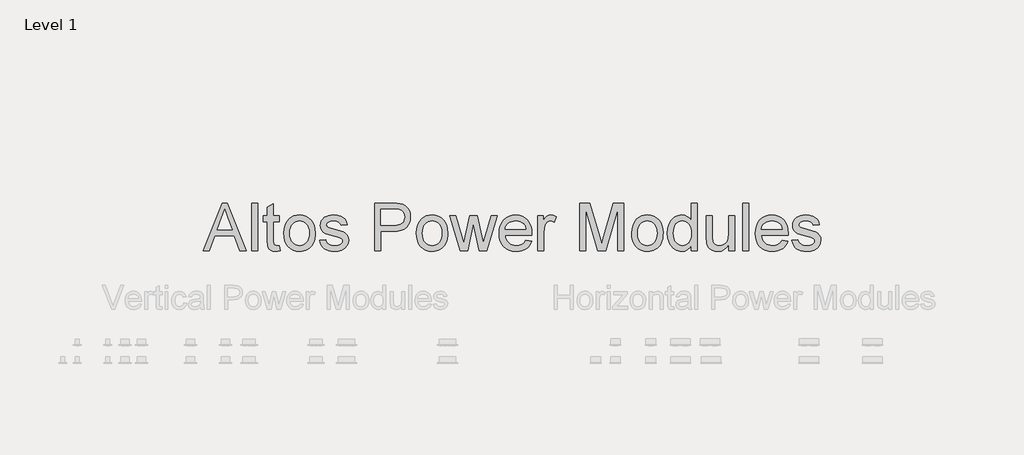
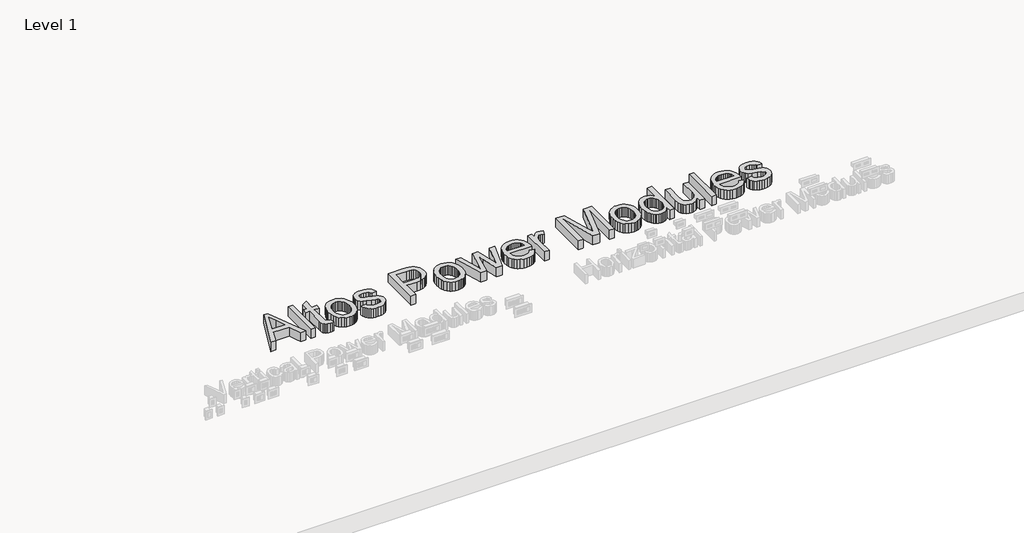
# One storey, part 20 of 22: 1 proxy.
"""IFC4 building model written with IfcOpenShell, lengths in millimetres."""

import ifcopenshell
import ifcopenshell.guid

model = None  # the IFC model being written
_history = None  # IfcOwnerHistory: only IFC2X3 demands one
_inside = {}  # id of a spatial element -> (the spatial element, [elements in it])
_under = {}  # id of a project, library or spatial element -> (it, [spatial elements below it])
_declared = {}  # id of a project -> (the project, [libraries it declares])
_typed = {}  # id of a type object -> (the type object, [elements of that type])
_made_of = {}  # id of a material, layer set ... -> (it, [elements and type objects made of it])


def new_model(schema):
    """Start an empty IFC model of exactly this schema.

    Asked for "IFC4X3", IfcOpenShell would pick the latest addendum, in which some entities
    have other attributes; the version numbers below select the first issue.
    IFC2X3 requires an IfcOwnerHistory on every rooted entity: one is made here for all.
    """
    global model, _history
    if schema == "IFC4X3":
        model = ifcopenshell.file(schema_version=(4, 3, 0, 0))
    else:
        model = ifcopenshell.file(schema=schema)
    _inside.clear()
    _under.clear()
    _declared.clear()
    _typed.clear()
    _made_of.clear()
    _history = None
    if model.schema == "IFC2X3":
        org = make("IfcOrganization", Name="unknown")
        user = make(
            "IfcPersonAndOrganization",
            ThePerson=make("IfcPerson", FamilyName="unknown"),
            TheOrganization=org,
        )
        app = make(
            "IfcApplication",
            ApplicationDeveloper=org,
            Version="unknown",
            ApplicationFullName="unknown",
            ApplicationIdentifier="unknown",
        )
        _history = make(
            "IfcOwnerHistory",
            OwningUser=user,
            OwningApplication=app,
            ChangeAction="ADDED",
            CreationDate=0,
        )
    return model


def make(cls, **values):
    """One entity of the class cls with the attributes given. An attribute that is None is left unset."""
    return model.create_entity(
        cls, **{name: value for name, value in values.items() if value is not None}
    )


def rooted(cls, **values):
    """An entity with a GlobalId (a new one), such as an element, a storey or a relation."""
    return make(cls, GlobalId=ifcopenshell.guid.new(), OwnerHistory=_history, **values)


def si_unit(unit_type, name, prefix=None):
    """IfcSIUnit, for example si_unit("LENGTHUNIT", "METRE", prefix="MILLI")."""
    return make("IfcSIUnit", UnitType=unit_type, Prefix=prefix, Name=name)


def assignment(units):
    """IfcUnitAssignment: the units of a project."""
    return None if units is None else make("IfcUnitAssignment", Units=units)


def point(xyz):
    """IfcCartesianPoint."""
    return None if xyz is None else make("IfcCartesianPoint", Coordinates=xyz)


def direction(xyz):
    """IfcDirection."""
    return None if xyz is None else make("IfcDirection", DirectionRatios=xyz)


def frame(location, z_axis=None, x_axis=None):
    """IfcAxis2Placement3D, a coordinate frame: its origin and axes. An axis left out is left unset."""
    return make(
        "IfcAxis2Placement3D",
        Location=point(location),
        Axis=direction(z_axis),
        RefDirection=direction(x_axis),
    )


def origin():
    """The frame at (0, 0, 0) with its axes left unset."""
    return frame((0.0, 0.0, 0.0))


def origin_with_axes():
    """The frame at (0, 0, 0) with the z axis (0, 0, 1) and the x axis (1, 0, 0) written out."""
    return frame((0.0, 0.0, 0.0), z_axis=(0.0, 0.0, 1.0), x_axis=(1.0, 0.0, 0.0))


def place(relative_to, where):
    """IfcLocalPlacement: puts the frame where relative to a parent placement (None: the world)."""
    return make(
        "IfcLocalPlacement", PlacementRelTo=relative_to, RelativePlacement=where
    )


def context(
    kind, dimensions, precision=None, world=None, true_north=None, identifier=None
):
    """IfcGeometricRepresentationContext, for example the 3D "Model" context."""
    return make(
        "IfcGeometricRepresentationContext",
        ContextIdentifier=identifier,
        ContextType=kind,
        CoordinateSpaceDimension=dimensions,
        Precision=precision,
        WorldCoordinateSystem=world,
        TrueNorth=true_north,
    )


def project(units=None, contexts=None):
    """IfcProject with its units and contexts."""
    return rooted(
        "IfcProject",
        Name="project",
        RepresentationContexts=contexts,
        UnitsInContext=assignment(units),
    )


def spatial(cls, under=None, at=None, **own):
    """A site, building, storey or space (cls), placed at a placement, below another one or the project."""
    s = rooted(cls, ObjectPlacement=at, **own)
    if under is not None:
        _under.setdefault(under.id(), (under, []))[1].append(s)
    return s


def polyline(points):
    """IfcPolyline through the points."""
    return make("IfcPolyline", Points=[point(p) for p in points])


def outline(outer, holes=None, kind="AREA"):
    """IfcArbitraryClosedProfileDef: a profile drawn as a closed curve; with holes, ...WithVoids."""
    if holes is None:
        return make("IfcArbitraryClosedProfileDef", ProfileType=kind, OuterCurve=outer)
    return make(
        "IfcArbitraryProfileDefWithVoids",
        ProfileType=kind,
        OuterCurve=outer,
        InnerCurves=holes,
    )


def extrude(swept, where, along, depth):
    """IfcExtrudedAreaSolid: the profile swept, set in the frame where, extruded along a direction by depth."""
    return make(
        "IfcExtrudedAreaSolid",
        SweptArea=swept,
        Position=where,
        ExtrudedDirection=direction(along),
        Depth=depth,
    )


def shape(context_of_items, identifier, shape_type, items):
    """IfcShapeRepresentation: the items that make up one representation, for example the "Body"."""
    return make(
        "IfcShapeRepresentation",
        ContextOfItems=context_of_items,
        RepresentationIdentifier=identifier,
        RepresentationType=shape_type,
        Items=items,
    )


def made_of(thing, what):
    """Note that an element or type object is made of a material, layer set ...; save() writes the relation."""
    if what is not None:
        _made_of.setdefault(what.id(), (what, []))[1].append(thing)
    return thing


def element(
    cls,
    number,
    at=None,
    inside=None,
    cuts=None,
    type_object=None,
    material=None,
    context=None,
    identifier="Body",
    shape_type=None,
    held_by="IfcProductDefinitionShape",
    body=None,
    shapes=None,
    **own,
):
    """One element of the class cls, such as IfcWall. Its Tag is "e" and its number.

    at: its placement. inside: the storey or other place that contains it. cuts: it is an
    opening in that element (IfcRelVoidsElement). A single representation is given by context,
    identifier, shape_type and body (its items); several are given by shapes. held_by: the class
    of the entity that holds the representations. save() writes the other relations.
    """
    e = rooted(cls, Tag="e%d" % number, ObjectPlacement=at, **own)
    if body is not None:
        shapes = [shape(context, identifier, shape_type, body)]
    if shapes is not None:
        e.Representation = make(held_by, Representations=shapes)
    if inside is not None:
        _inside.setdefault(inside.id(), (inside, []))[1].append(e)
    if cuts is not None:
        rooted(
            "IfcRelVoidsElement", RelatingBuildingElement=cuts, RelatedOpeningElement=e
        )
    if type_object is not None:
        _typed.setdefault(type_object.id(), (type_object, []))[1].append(e)
    return made_of(e, material)


def aggregate(whole, parts):
    """IfcRelAggregates: a whole, such as a stair, and the parts it consists of."""
    return rooted("IfcRelAggregates", RelatingObject=whole, RelatedObjects=parts)


def save(model, path):
    """Write the relations noted so far, then the file.

    IfcRelAggregates (storeys below a building ...), IfcRelContainedInSpatialStructure (elements
    in a storey), IfcRelDefinesByType, IfcRelAssociatesMaterial and IfcRelDeclares: one each for
    every whole, place, type object, material and project.
    """
    for whole, parts in _under.values():
        aggregate(whole, parts)
    for where, things in _inside.values():
        rooted(
            "IfcRelContainedInSpatialStructure",
            RelatedElements=things,
            RelatingStructure=where,
        )
    for kind, things in _typed.values():
        rooted("IfcRelDefinesByType", RelatedObjects=things, RelatingType=kind)
    for what, things in _made_of.values():
        rooted("IfcRelAssociatesMaterial", RelatedObjects=things, RelatingMaterial=what)
    for by, libraries in _declared.values():
        rooted("IfcRelDeclares", RelatingContext=by, RelatedDefinitions=libraries)
    model.write(path)


model = new_model("IFC4")

# Units and contexts
model_context = context("Model", 3, world=origin())
ifc_project = project(units=[si_unit("LENGTHUNIT", "METRE", prefix="MILLI")], contexts=[model_context])

# Site, building, storey
site = spatial("IfcSite", under=ifc_project)
building = spatial("IfcBuilding", under=site)
storey = spatial("IfcBuildingStorey", under=building, Name="Level 1", Elevation=0.0)

# Proxy
placement = place(None, origin())
element("IfcBuildingElementProxy", 1, Name="24\" Arial", ObjectType="24\" Arial", at=placement, inside=storey, context=model_context, shape_type="SweptSolid", body=[
    extrude(outline(polyline([(-17366.1105674, -4067.9172493), (-17122.9625211, -3458.7830611), (-17058.1230421, -3458.7830611), (-16814.9749958, -4067.9172493), (-16895.4294869, -4067.9172493), (-16965.1765412, -3877.5628155), (-17216.0577364, -3877.5628155), (-17285.6560762, -4067.9172493), (-17366.1105674, -4067.9172493)]), holes=[polyline([(-17188.0994289, -3801.4210419), (-16992.9861343, -3801.4210419), (-17047.8617484, -3651.6656397), (-17090.5427816, -3534.9248346), (-17128.4649539, -3638.5787724), (-17188.0994289, -3801.4210419)])]), origin_with_axes(), (0.0, 0.0, 1.0), 152.4),
    extrude(outline(polyline([(-16743.1459399, -4067.9172493), (-16743.1459399, -3458.7830611), (-16667.0041664, -3458.7830611), (-16667.0041664, -4067.9172493), (-16743.1459399, -4067.9172493)])), origin_with_axes(), (0.0, 0.0, 1.0), 152.4),
    extrude(outline(polyline([(-16390.9902374, -4004.4161999), (-16381.4725157, -4070.1479653), (-16411.6243606, -4075.6132195), (-16438.4301314, -4077.4349709), (-16474.9766956, -4074.2747899), (-16502.2286096, -4064.7942468), (-16521.4871246, -4050.1830569), (-16534.0534915, -4031.6309353), (-16540.9687112, -3999.7688748), (-16543.2737844, -3945.2278681), (-16543.2737844, -3696.7261034), (-16600.3801146, -3696.7261034), (-16600.3801146, -3620.5843298), (-16543.2737844, -3620.5843298), (-16543.2737844, -3511.8741024), (-16467.1320109, -3467.1110676), (-16467.1320109, -3620.5843298), (-16390.9902374, -3620.5843298), (-16390.9902374, -3696.7261034), (-16467.1320109, -3696.7261034), (-16467.1320109, -3942.9971521), (-16463.1167221, -3982.257754), (-16450.1042119, -3996.1625506), (-16439.1179355, -4000.0105357), (-16424.1535489, -4001.2931974), (-16390.9902374, -4004.4161999)])), origin_with_axes(), (0.0, 0.0, 1.0), 152.4),
    extrude(outline(polyline([(-16333.8839073, -3844.2507895), (-16329.7663773, -3786.3172355), (-16317.4137873, -3736.3956699), (-16296.8261374, -3694.4860927), (-16268.0034274, -3660.5885038), (-16238.9855299, -3638.9226745), (-16206.9561657, -3623.4470821), (-16171.9153348, -3614.1617266), (-16133.8630374, -3611.0666081), (-16091.8558663, -3614.8355888), (-16053.8732787, -3626.1425306), (-16019.9152746, -3644.9874336), (-15989.981854, -3671.3702979), (-15965.5508663, -3704.398837), (-15948.1001607, -3743.1807645), (-15937.6297374, -3787.7160804), (-15934.1395963, -3838.0047847), (-15935.6825082, -3878.7618253), (-15940.3112439, -3914.9273088), (-15948.0258035, -3946.5012352), (-15958.8261869, -3973.4836044), (-15972.5776217, -3996.7899395), (-15989.1453355, -4017.3357635), (-16008.5293283, -4035.1210764), (-16030.7296, -4050.1458783), (-16054.8817483, -4062.0848563), (-16080.1213706, -4070.6126978), (-16106.4484669, -4075.7294026), (-16133.8630374, -4077.4349709), (-16176.4836553, -4073.6799323), (-16214.8194396, -4062.4148164), (-16248.8703902, -4043.6396232), (-16278.6365071, -4017.3543528), (-16302.8072447, -3984.0051483), (-16320.0720572, -3944.0381529), (-16330.4309447, -3897.4533666), (-16333.8839073, -3844.2507895)]), holes=[polyline([(-16257.7421337, -3844.1020751), (-16255.5393017, -3881.0343673), (-16248.9308055, -3913.0126109), (-16237.9166451, -3940.036806), (-16222.4968206, -3962.1069527), (-16203.7402167, -3979.2509347), (-16182.7157182, -3991.4966362), (-16159.4233251, -3998.8440571), (-16133.8630374, -4001.2931974), (-16108.4328747, -3998.8301152), (-16085.2334281, -3991.4408683), (-16064.2646975, -3979.125457), (-16045.5266829, -3961.8838811), (-16030.1068584, -3939.5953101), (-16019.0926981, -3912.1389138), (-16012.4842019, -3879.514692), (-16010.2813698, -3841.7226447), (-16012.4981439, -3805.9614785), (-16019.148466, -3774.8197534), (-16030.2323362, -3748.2974694), (-16045.7497545, -3726.3946264), (-16064.557479, -3709.2506443), (-16085.5122676, -3697.0049429), (-16108.6141204, -3689.657522), (-16133.8630374, -3687.2083817), (-16159.4233251, -3689.6482273), (-16182.7157182, -3696.9677643), (-16203.7402167, -3709.1669925), (-16222.4968206, -3726.245912), (-16237.9166451, -3748.2509961), (-16248.9308055, -3775.228718), (-16255.5393017, -3807.1790777), (-16257.7421337, -3844.1020751)])]), origin_with_axes(), (0.0, 0.0, 1.0), 152.4),
    extrude(outline(polyline([(-15877.0332662, -3934.6691456), (-15800.8914926, -3925.1514239), (-15796.2906408, -3942.5138303), (-15788.8828047, -3957.7198778), (-15778.6679843, -3970.7695665), (-15765.6461795, -3981.6628964), (-15749.7802118, -3990.2511531), (-15731.0329026, -3996.3856222), (-15684.8942595, -4001.2931974), (-15639.3132955, -3996.7945868), (-15621.5976924, -3991.1713235), (-15607.265342, -3983.2987549), (-15588.3042558, -3963.7428111), (-15583.5639843, -3952.7937133), (-15581.9838938, -3941.0638649), (-15583.5732789, -3930.7839819), (-15588.3414344, -3921.6566355), (-15607.4140564, -3906.8595525), (-15635.9300429, -3897.1931164), (-15685.7865459, -3885.1472499), (-15755.27335, -3865.0522164), (-15800.4453494, -3847.8942924), (-15829.463247, -3829.1748671), (-15850.4877455, -3804.39533), (-15863.2585947, -3775.1357715), (-15867.5155445, -3742.9762822), (-15864.0951132, -3713.4750628), (-15853.8338195, -3686.2417381), (-15837.6611284, -3662.3544873), (-15816.5065048, -3642.89149), (-15795.4820063, -3630.6411412), (-15768.0999671, -3620.3612582), (-15736.4423889, -3613.3902707), (-15702.5912733, -3611.0666081), (-15653.032199, -3614.8030575), (-15609.9422012, -3626.0124055), (-15575.2917457, -3643.5978835), (-15551.0512983, -3666.4627227), (-15534.9901429, -3696.2985495), (-15524.8775636, -3734.7969901), (-15601.0193372, -3744.3147118), (-15610.6300053, -3720.3531039), (-15629.6468594, -3702.3028934), (-15658.2557924, -3690.9820096), (-15696.6426973, -3687.2083817), (-15740.3647313, -3690.8147059), (-15769.5127539, -3701.6336786), (-15785.9085167, -3717.2486907), (-15791.3737709, -3735.2431333), (-15789.1058763, -3746.9543924), (-15782.3021925, -3757.4015791), (-15770.6652905, -3766.7334078), (-15753.8977418, -3774.2063065), (-15688.3146908, -3790.4161762), (-15621.0400134, -3810.3067274), (-15576.5558181, -3826.256347), (-15547.0360094, -3843.3956817), (-15524.654492, -3866.8553786), (-15510.5452132, -3896.7097946), (-15505.8421203, -3933.0332872), (-15511.3631424, -3970.5836735), (-15527.9262089, -4005.9033439), (-15554.8992834, -4036.2224925), (-15591.6503299, -4058.7713136), (-15636.0415787, -4072.7690566), (-15685.9352604, -4077.4349709), (-15726.9153726, -4075.1856656), (-15762.7090701, -4068.4377497), (-15793.3163528, -4057.1912231), (-15818.7372208, -4041.4460858), (-15839.5014691, -4021.2766951), (-15856.1388928, -3996.7574082), (-15868.6494918, -3967.888225), (-15877.0332662, -3934.6691456)])), origin_with_axes(), (0.0, 0.0, 1.0), 152.4),
    extrude(outline(polyline([(-15172.7218611, -4067.9172493), (-15172.7218611, -3458.7830611), (-14946.9733998, -3458.7830611), (-14894.4028589, -3460.2330265), (-14855.9601861, -3464.5829228), (-14815.3797439, -3475.4204848), (-14781.9747714, -3493.0617306), (-14755.0760541, -3518.3060003), (-14734.014377, -3551.9526336), (-14720.4070093, -3591.6407895), (-14715.87122, -3635.0096268), (-14718.9338072, -3672.4020041), (-14728.1215688, -3706.8015041), (-14743.4345049, -3738.2081267), (-14764.8726153, -3766.621872), (-14794.3041248, -3790.1745153), (-14833.597258, -3806.997832), (-14882.752015, -3817.091822), (-14941.7683957, -3820.4564853), (-15096.5800876, -3820.4564853), (-15096.5800876, -4067.9172493), (-15172.7218611, -4067.9172493)]), holes=[polyline([(-15096.5800876, -3744.3147118), (-14937.3069637, -3744.3147118), (-14900.6860424, -3742.5673176), (-14869.7906255, -3737.3251349), (-14844.620713, -3728.5881639), (-14825.176305, -3716.3564043), (-14810.6673563, -3700.9551691), (-14800.3038214, -3682.709771), (-14794.0857005, -3661.62021), (-14792.0129935, -3637.686486), (-14796.9019795, -3603.4821737), (-14811.5689373, -3574.6315798), (-14834.1921156, -3552.9192772), (-14862.949763, -3540.1298387), (-14892.3208573, -3536.2260856), (-14939.0915365, -3534.9248346), (-15096.5800876, -3534.9248346), (-15096.5800876, -3744.3147118)])]), origin_with_axes(), (0.0, 0.0, 1.0), 152.4),
    extrude(outline(polyline([(-14639.7294465, -3844.2507895), (-14635.6119165, -3786.3172355), (-14623.2593265, -3736.3956699), (-14602.6716766, -3694.4860927), (-14573.8489667, -3660.5885038), (-14544.8310691, -3638.9226745), (-14512.8017049, -3623.4470821), (-14477.7608741, -3614.1617266), (-14439.7085766, -3611.0666081), (-14397.7014055, -3614.8355888), (-14359.718818, -3626.1425306), (-14325.7608139, -3644.9874336), (-14295.8273933, -3671.3702979), (-14271.3964055, -3704.398837), (-14253.9457, -3743.1807645), (-14243.4752766, -3787.7160804), (-14239.9851355, -3838.0047847), (-14241.5280474, -3878.7618253), (-14246.1567832, -3914.9273088), (-14253.8713428, -3946.5012352), (-14264.6717262, -3973.4836044), (-14278.423161, -3996.7899395), (-14294.9908748, -4017.3357635), (-14314.3748675, -4035.1210764), (-14336.5751392, -4050.1458783), (-14360.7272875, -4062.0848563), (-14385.9669098, -4070.6126978), (-14412.2940062, -4075.7294026), (-14439.7085766, -4077.4349709), (-14482.3291946, -4073.6799323), (-14520.6649789, -4062.4148164), (-14554.7159295, -4043.6396232), (-14584.4820464, -4017.3543528), (-14608.6527839, -3984.0051483), (-14625.9175965, -3944.0381529), (-14636.276484, -3897.4533666), (-14639.7294465, -3844.2507895)]), holes=[polyline([(-14563.587673, -3844.1020751), (-14561.3848409, -3881.0343673), (-14554.7763447, -3913.0126109), (-14543.7621843, -3940.036806), (-14528.3423598, -3962.1069527), (-14509.585756, -3979.2509347), (-14488.5612575, -3991.4966362), (-14465.2688644, -3998.8440571), (-14439.7085766, -4001.2931974), (-14414.278414, -3998.8301152), (-14391.0789674, -3991.4408683), (-14370.1102368, -3979.125457), (-14351.3722222, -3961.8838811), (-14335.9523977, -3939.5953101), (-14324.9382373, -3912.1389138), (-14318.3297411, -3879.514692), (-14316.1269091, -3841.7226447), (-14318.3436831, -3805.9614785), (-14324.9940052, -3774.8197534), (-14336.0778755, -3748.2974694), (-14351.5952938, -3726.3946264), (-14370.4030182, -3709.2506443), (-14391.3578069, -3697.0049429), (-14414.4596597, -3689.657522), (-14439.7085766, -3687.2083817), (-14465.2688644, -3689.6482273), (-14488.5612575, -3696.9677643), (-14509.585756, -3709.1669925), (-14528.3423598, -3726.245912), (-14543.7621843, -3748.2509961), (-14554.7763447, -3775.228718), (-14561.3848409, -3807.1790777), (-14563.587673, -3844.1020751)])]), origin_with_axes(), (0.0, 0.0, 1.0), 152.4),
    extrude(outline(polyline([(-14080.117154, -4067.9172493), (-14216.1908313, -3620.5843298), (-14137.0747698, -3620.5843298), (-14059.8919954, -3881.5781043), (-14036.8412632, -3974.822034), (-14017.9545342, -3884.9985355), (-13956.5354865, -3620.5843298), (-13865.8197016, -3620.5843298), (-13804.6980826, -3884.2549635), (-13787.8933553, -3965.6017411), (-13763.8016222, -3879.7935315), (-13686.4701335, -3620.5843298), (-13607.0566432, -3620.5843298), (-13744.1713213, -4067.9172493), (-13836.2255357, -4067.9172493), (-13894.6702955, -3805.5850452), (-13911.6237372, -3723.7921244), (-13987.0219388, -4067.9172493), (-14080.117154, -4067.9172493)])), origin_with_axes(), (0.0, 0.0, 1.0), 152.4),
    extrude(outline(polyline([(-13241.5166445, -3934.6691456), (-13166.862015, -3944.1868673), (-13178.3083766, -3974.0877566), (-13193.7607324, -4000.4380896), (-13213.2190823, -4023.2378663), (-13236.6834265, -4042.4870866), (-13263.9121039, -4057.776786), (-13294.6634537, -4068.6979999), (-13328.9374759, -4075.2507282), (-13366.7341705, -4077.4349709), (-13413.9788769, -4073.6659903), (-13456.0743472, -4062.3590485), (-13493.0205812, -4043.5141454), (-13524.8175792, -4017.1312812), (-13550.3871616, -3983.944733), (-13568.651149, -3944.6887784), (-13579.6095415, -3899.3634172), (-13583.2623389, -3847.9686496), (-13579.5723629, -3794.831135), (-13568.5024346, -3747.9953932), (-13550.0525542, -3707.4614242), (-13524.2227216, -3673.2292279), (-13492.5093755, -3646.0330818), (-13456.4089546, -3626.6072631), (-13415.9214588, -3614.9517719), (-13371.0468882, -3611.0666081), (-13327.6176356, -3614.9424772), (-13288.3430917, -3626.5700845), (-13253.2232563, -3645.9494299), (-13222.2581295, -3673.0805135), (-13196.9813286, -3707.2383526), (-13178.9264708, -3747.6979644), (-13168.0935562, -3794.459349), (-13164.4825846, -3847.5225064), (-13164.9287278, -3868.0450938), (-13507.1205654, -3868.0450938), (-13502.710254, -3898.4293049), (-13493.9407516, -3925.0398881), (-13480.8120584, -3947.8768434), (-13463.3241742, -3966.9401707), (-13442.4437428, -3981.9696199), (-13419.1374077, -3992.7049407), (-13393.4051689, -3999.1461333), (-13365.2470265, -4001.2931974), (-13324.7223521, -3997.3150872), (-13290.592397, -3985.3807565), (-13262.8571611, -3964.7466333), (-13241.5166445, -3934.6691456)]), holes=[polyline([(-13507.1205654, -3791.9033203), (-13240.6243581, -3791.9033203), (-13250.9228304, -3751.6760747), (-13259.780632, -3735.8565802), (-13271.1108104, -3722.899838), (-13291.8750587, -3707.2848259), (-13315.5020592, -3696.1312457), (-13341.991812, -3689.4390977), (-13371.344317, -3687.2083817), (-13398.1175565, -3688.9883072), (-13422.6693747, -3694.3280836), (-13444.9997716, -3703.2277111), (-13465.108747, -3715.6871895), (-13481.9831843, -3731.1302507), (-13494.6099664, -3748.9806261), (-13502.9890935, -3769.238316), (-13507.1205654, -3791.9033203)])]), origin_with_axes(), (0.0, 0.0, 1.0), 152.4),
    extrude(outline(polyline([(-13088.3408111, -4067.9172493), (-13088.3408111, -3620.5843298), (-13021.7167593, -3620.5843298), (-13021.7167593, -3686.7622385), (-12997.1045258, -3648.3939229), (-12974.4255796, -3625.7893339), (-12951.6722762, -3614.7472896), (-12926.8369712, -3611.0666081), (-12888.9147988, -3616.940827), (-12850.3977688, -3634.5634836), (-12875.8279315, -3702.8233938), (-12902.5965237, -3691.1121347), (-12929.365116, -3687.2083817), (-12952.0998301, -3690.9634203), (-12972.4179352, -3702.2285362), (-12988.8322873, -3720.1486216), (-12999.8557423, -3743.8685686), (-13009.1132137, -3786.4008874), (-13012.1990376, -3832.7997806), (-13012.1990376, -4067.9172493), (-13088.3408111, -4067.9172493)])), origin_with_axes(), (0.0, 0.0, 1.0), 152.4),
    extrude(outline(polyline([(-12555.3483965, -4067.9172493), (-12555.3483965, -3458.7830611), (-12424.3310088, -3458.7830611), (-12299.7083405, -3888.121538), (-12274.5756066, -3977.796322), (-12247.3608712, -3880.6858179), (-12124.8202044, -3458.7830611), (-11993.8028168, -3458.7830611), (-11993.8028168, -4067.9172493), (-12069.9445903, -4067.9172493), (-12069.9445903, -3534.9248346), (-12222.9717093, -4067.9172493), (-12326.1795039, -4067.9172493), (-12479.206623, -3534.9248346), (-12479.206623, -4067.9172493), (-12555.3483965, -4067.9172493)])), origin_with_axes(), (0.0, 0.0, 1.0), 152.4),
    extrude(outline(polyline([(-11889.1078782, -3844.2507895), (-11884.9903482, -3786.3172355), (-11872.6377582, -3736.3956699), (-11852.0501083, -3694.4860927), (-11823.2273984, -3660.5885038), (-11794.2095008, -3638.9226745), (-11762.1801366, -3623.4470821), (-11727.1393058, -3614.1617266), (-11689.0870083, -3611.0666081), (-11647.0798372, -3614.8355888), (-11609.0972497, -3626.1425306), (-11575.1392456, -3644.9874336), (-11545.205825, -3671.3702979), (-11520.7748372, -3704.398837), (-11503.3241317, -3743.1807645), (-11492.8537083, -3787.7160804), (-11489.3635672, -3838.0047847), (-11490.9064791, -3878.7618253), (-11495.5352149, -3914.9273088), (-11503.2497745, -3946.5012352), (-11514.0501579, -3973.4836044), (-11527.8015927, -3996.7899395), (-11544.3693064, -4017.3357635), (-11563.7532992, -4035.1210764), (-11585.9535709, -4050.1458783), (-11610.1057192, -4062.0848563), (-11635.3453415, -4070.6126978), (-11661.6724379, -4075.7294026), (-11689.0870083, -4077.4349709), (-11731.7076263, -4073.6799323), (-11770.0434106, -4062.4148164), (-11804.0943612, -4043.6396232), (-11833.8604781, -4017.3543528), (-11858.0312156, -3984.0051483), (-11875.2960282, -3944.0381529), (-11885.6549157, -3897.4533666), (-11889.1078782, -3844.2507895)]), holes=[polyline([(-11812.9661047, -3844.1020751), (-11810.7632726, -3881.0343673), (-11804.1547764, -3913.0126109), (-11793.140616, -3940.036806), (-11777.7207915, -3962.1069527), (-11758.9641877, -3979.2509347), (-11737.9396892, -3991.4966362), (-11714.6472961, -3998.8440571), (-11689.0870083, -4001.2931974), (-11663.6568457, -3998.8301152), (-11640.4573991, -3991.4408683), (-11619.4886685, -3979.125457), (-11600.7506539, -3961.8838811), (-11585.3308294, -3939.5953101), (-11574.316669, -3912.1389138), (-11567.7081728, -3879.514692), (-11565.5053407, -3841.7226447), (-11567.7221148, -3805.9614785), (-11574.3724369, -3774.8197534), (-11585.4563072, -3748.2974694), (-11600.9737255, -3726.3946264), (-11619.7814499, -3709.2506443), (-11640.7362386, -3697.0049429), (-11663.8380913, -3689.657522), (-11689.0870083, -3687.2083817), (-11714.6472961, -3689.6482273), (-11737.9396892, -3696.9677643), (-11758.9641877, -3709.1669925), (-11777.7207915, -3726.245912), (-11793.140616, -3748.2509961), (-11804.1547764, -3775.228718), (-11810.7632726, -3807.1790777), (-11812.9661047, -3844.1020751)])]), origin_with_axes(), (0.0, 0.0, 1.0), 152.4),
    extrude(outline(polyline([(-11127.690143, -4067.9172493), (-11127.690143, -3996.0881934), (-11150.4713304, -4031.6774086), (-11178.0671465, -4057.0982765), (-11210.4775914, -4072.3507973), (-11247.702665, -4077.4349709), (-11272.8353988, -4075.5946302), (-11296.9271318, -4070.0736081), (-11319.977864, -4060.8719045), (-11341.9875954, -4047.9895195), (-11362.2685219, -4031.812181), (-11380.1328394, -4012.725617), (-11395.5805478, -3990.7298276), (-11408.6116473, -3965.8248127), (-11418.9565928, -3938.4845995), (-11426.3458396, -3909.1832151), (-11432.2572371, -3844.6969327), (-11426.8105721, -3781.0099903), (-11410.4705773, -3723.4946956), (-11398.2202285, -3697.8693453), (-11383.2558418, -3675.4227654), (-11365.5774174, -3656.1549557), (-11345.1849551, -3640.0659164), (-11322.7987903, -3627.3787191), (-11299.1392585, -3618.3164352), (-11274.2063597, -3612.8790649), (-11248.0000938, -3611.0666081), (-11210.7471362, -3616.2530229), (-11177.8068963, -3631.8122671), (-11149.8857674, -3655.6623393), (-11127.690143, -3685.7212377), (-11127.690143, -3458.7830611), (-11051.5483695, -3458.7830611), (-11051.5483695, -4067.9172493), (-11127.690143, -4067.9172493)]), holes=[polyline([(-11356.1154636, -3844.3995039), (-11353.9683994, -3881.3225014), (-11347.5272069, -3913.2728611), (-11336.791886, -3940.250583), (-11321.7624369, -3962.2556671), (-11303.8144675, -3979.3345866), (-11284.3235863, -3991.5338148), (-11263.2897932, -3998.8533518), (-11240.7130881, -4001.2931974), (-11218.0294945, -3998.9648876), (-11197.1211792, -3991.979958), (-11177.988142, -3980.3384088), (-11160.6303829, -3964.0402399), (-11146.219028, -3942.9553261), (-11135.925203, -3916.9535425), (-11129.748908, -3886.034889), (-11127.690143, -3850.1993656), (-11129.7860866, -3810.9108797), (-11136.0739174, -3777.2177731), (-11146.5536354, -3749.1200459), (-11161.2252405, -3726.617698), (-11178.9640802, -3709.3761221), (-11198.6455018, -3697.0607108), (-11220.2695052, -3689.6714639), (-11243.8360905, -3687.2083817), (-11266.8589388, -3689.5738701), (-11287.8927319, -3696.6703355), (-11306.93747, -3708.4977777), (-11323.9931529, -3725.0561968), (-11338.0466638, -3746.7080842), (-11348.0848859, -3773.8159312), (-11354.1078192, -3806.3797378), (-11356.1154636, -3844.3995039)])]), origin_with_axes(), (0.0, 0.0, 1.0), 152.4),
    extrude(outline(polyline([(-10651.8040585, -4067.9172493), (-10651.8040585, -3991.0319037), (-10679.3534014, -4028.8332456), (-10711.4385335, -4055.8342041), (-10748.0594548, -4072.0347792), (-10789.2161654, -4077.4349709), (-10826.3018193, -4073.6427537), (-10860.8221497, -4062.266102), (-10889.7842794, -4045.1639458), (-10910.195331, -4024.1952152), (-10923.9328238, -3998.727874), (-10932.8742772, -3968.1298859), (-10937.3357092, -3897.3418308), (-10937.3357092, -3620.5843298), (-10861.1939357, -3620.5843298), (-10861.1939357, -3861.5016601), (-10860.0413991, -3909.6851262), (-10856.5837893, -3939.1305776), (-10845.4859771, -3965.0254728), (-10826.469123, -3984.7115417), (-10800.7972994, -3997.1477835), (-10769.7345789, -4001.2931974), (-10736.8872854, -3997.054837), (-10706.1591723, -3984.3397557), (-10680.8219561, -3964.3190794), (-10664.1473539, -3938.163934), (-10654.8898824, -3902.3423526), (-10651.8040585, -3853.322368), (-10651.8040585, -3620.5843298), (-10575.662285, -3620.5843298), (-10575.662285, -4067.9172493), (-10651.8040585, -4067.9172493)])), origin_with_axes(), (0.0, 0.0, 1.0), 152.4),
    extrude(outline(polyline([(-10470.9673464, -4067.9172493), (-10470.9673464, -3458.7830611), (-10394.8255729, -3458.7830611), (-10394.8255729, -4067.9172493), (-10470.9673464, -4067.9172493)])), origin_with_axes(), (0.0, 0.0, 1.0), 152.4),
    extrude(outline(polyline([(-9967.4203833, -3934.6691456), (-9892.7657538, -3944.1868673), (-9904.2121154, -3974.0877566), (-9919.6644711, -4000.4380896), (-9939.1228211, -4023.2378663), (-9962.5871653, -4042.4870866), (-9989.8158427, -4057.776786), (-10020.5671925, -4068.6979999), (-10054.8412147, -4075.2507282), (-10092.6379093, -4077.4349709), (-10139.8826157, -4073.6659903), (-10181.9780859, -4062.3590485), (-10218.92432, -4043.5141454), (-10250.721318, -4017.1312812), (-10276.2909004, -3983.944733), (-10294.5548878, -3944.6887784), (-10305.5132802, -3899.3634172), (-10309.1660777, -3847.9686496), (-10305.4761016, -3794.831135), (-10294.4061734, -3747.9953932), (-10275.956293, -3707.4614242), (-10250.1264604, -3673.2292279), (-10218.4131143, -3646.0330818), (-10182.3126933, -3626.6072631), (-10141.8251975, -3614.9517719), (-10096.9506269, -3611.0666081), (-10053.5213744, -3614.9424772), (-10014.2468304, -3626.5700845), (-9979.1269951, -3645.9494299), (-9948.1618683, -3673.0805135), (-9922.8850674, -3707.2383526), (-9904.8302096, -3747.6979644), (-9893.9972949, -3794.459349), (-9890.3863234, -3847.5225064), (-9890.8324666, -3868.0450938), (-10233.0243042, -3868.0450938), (-10228.6139927, -3898.4293049), (-10219.8444904, -3925.0398881), (-10206.7157971, -3947.8768434), (-10189.227913, -3966.9401707), (-10168.3474816, -3981.9696199), (-10145.0411465, -3992.7049407), (-10119.3089077, -3999.1461333), (-10091.1507653, -4001.2931974), (-10050.6260909, -3997.3150872), (-10016.4961358, -3985.3807565), (-9988.7608999, -3964.7466333), (-9967.4203833, -3934.6691456)]), holes=[polyline([(-10233.0243042, -3791.9033203), (-9966.5280969, -3791.9033203), (-9976.8265692, -3751.6760747), (-9985.6843707, -3735.8565802), (-9997.0145492, -3722.899838), (-10017.7787975, -3707.2848259), (-10041.405798, -3696.1312457), (-10067.8955507, -3689.4390977), (-10097.2480557, -3687.2083817), (-10124.0212953, -3688.9883072), (-10148.5731135, -3694.3280836), (-10170.9035103, -3703.2277111), (-10191.0124858, -3715.6871895), (-10207.886923, -3731.1302507), (-10220.5137052, -3748.9806261), (-10228.8928322, -3769.238316), (-10233.0243042, -3791.9033203)])]), origin_with_axes(), (0.0, 0.0, 1.0), 152.4),
    extrude(outline(polyline([(-9842.7977149, -3934.6691456), (-9766.6559414, -3925.1514239), (-9762.0550896, -3942.5138303), (-9754.6472535, -3957.7198778), (-9744.432433, -3970.7695665), (-9731.4106283, -3981.6628964), (-9715.5446606, -3990.2511531), (-9696.7973513, -3996.3856222), (-9650.6587083, -4001.2931974), (-9605.0777443, -3996.7945868), (-9587.3621412, -3991.1713235), (-9573.0297908, -3983.2987549), (-9554.0687046, -3963.7428111), (-9549.3284331, -3952.7937133), (-9547.7483425, -3941.0638649), (-9549.3377277, -3930.7839819), (-9554.1058832, -3921.6566355), (-9573.1785052, -3906.8595525), (-9601.6944917, -3897.1931164), (-9651.5509947, -3885.1472499), (-9721.0377988, -3865.0522164), (-9766.2097982, -3847.8942924), (-9795.2276958, -3829.1748671), (-9816.2521943, -3804.39533), (-9829.0230435, -3775.1357715), (-9833.2799932, -3742.9762822), (-9829.859562, -3713.4750628), (-9819.5982683, -3686.2417381), (-9803.4255772, -3662.3544873), (-9782.2709536, -3642.89149), (-9761.2464551, -3630.6411412), (-9733.8644159, -3620.3612582), (-9702.2068377, -3613.3902707), (-9668.3557221, -3611.0666081), (-9618.7966478, -3614.8030575), (-9575.70665, -3626.0124055), (-9541.0561945, -3643.5978835), (-9516.8157471, -3666.4627227), (-9500.7545917, -3696.2985495), (-9490.6420124, -3734.7969901), (-9566.7837859, -3744.3147118), (-9576.3944541, -3720.3531039), (-9595.4113082, -3702.3028934), (-9624.0202412, -3690.9820096), (-9662.407146, -3687.2083817), (-9706.12918, -3690.8147059), (-9735.2772027, -3701.6336786), (-9751.6729655, -3717.2486907), (-9757.1382197, -3735.2431333), (-9754.8703251, -3746.9543924), (-9748.0666412, -3757.4015791), (-9736.4297393, -3766.7334078), (-9719.6621906, -3774.2063065), (-9654.0791395, -3790.4161762), (-9586.8044622, -3810.3067274), (-9542.3202669, -3826.256347), (-9512.8004582, -3843.3956817), (-9490.4189408, -3866.8553786), (-9476.309662, -3896.7097946), (-9471.606569, -3933.0332872), (-9477.1275912, -3970.5836735), (-9493.6906576, -4005.9033439), (-9520.6637322, -4036.2224925), (-9557.4147786, -4058.7713136), (-9601.8060275, -4072.7690566), (-9651.6997091, -4077.4349709), (-9692.6798214, -4075.1856656), (-9728.4735188, -4068.4377497), (-9759.0808016, -4057.1912231), (-9784.5016696, -4041.4460858), (-9805.2659179, -4021.2766951), (-9821.9033415, -3996.7574082), (-9834.4139405, -3967.888225), (-9842.7977149, -3934.6691456)])), origin_with_axes(), (0.0, 0.0, 1.0), 152.4),
])

save(model, "model.ifc")
